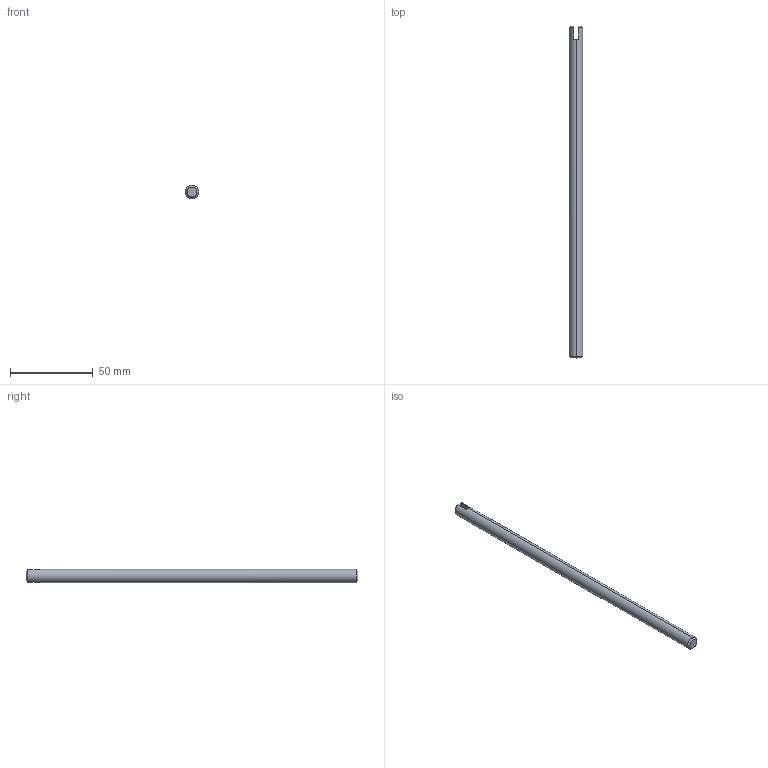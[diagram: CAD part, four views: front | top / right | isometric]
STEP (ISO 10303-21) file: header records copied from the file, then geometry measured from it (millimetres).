
FILE_DESCRIPTION (( 'STEP AP203' ), '1' );
FILE_NAME ('084.531.001.STEP', '2015-02-10T16:03:01', ( '' ), ( '' ), 'SwSTEP 2.0', 'SolidWorks 2012', '' );
FILE_SCHEMA (( 'CONFIG_CONTROL_DESIGN' ));
Length unit declared in the file: millimetre
Products named in the file (1): 084.531.001
Bounding box: 8 x 200 x 8 mm (x, y, z)
Volume: 9845.8 mm3; surface area: 5165.9 mm2
Topology: 1 solids, 1 shells, 12 faces, 28 edges, 18 vertices
Faces by surface type: plane 6, cone 4, cylinder 2
Entity records: 429 total; most frequent: CARTESIAN_POINT 71, DIRECTION 62, ORIENTED_EDGE 56, EDGE_CURVE 28, AXIS2_PLACEMENT_3D 25, VERTEX_POINT 18, EDGE_LOOP 12, VECTOR 12
